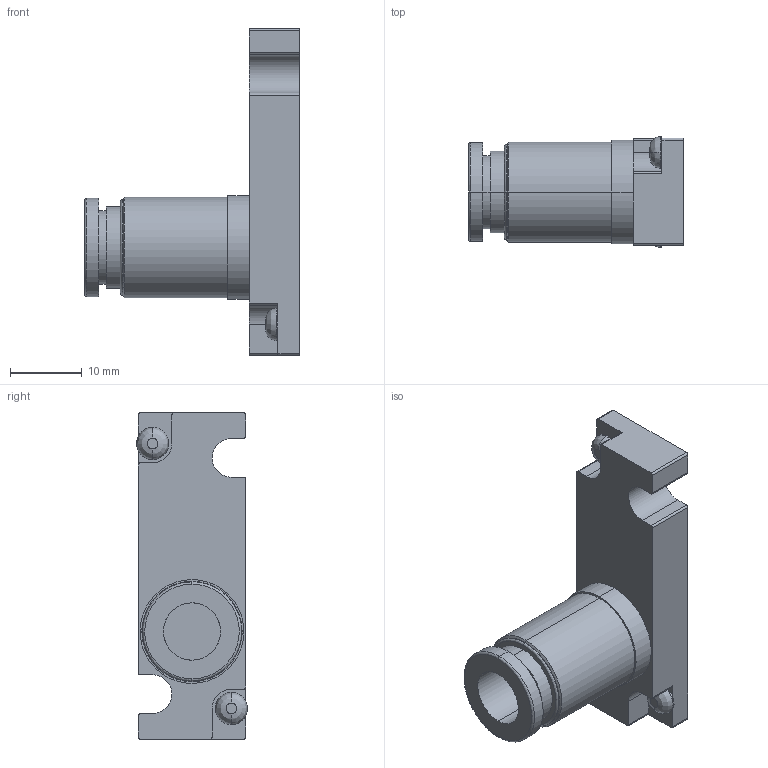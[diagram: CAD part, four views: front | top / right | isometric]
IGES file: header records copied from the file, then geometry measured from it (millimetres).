
Start section: ------------------------------------------------------------------------
Global section: file name: D:\ICADMX\tmp\trans3d_spg\CVICAD02.3036.F15_Port-FJ6B_16776.igs; native system: spGate; preprocessor: ver12.6.6; author: Unknown; organization: Unknown; date: 210712.184843; units: millimetre
Bounding box: 30 x 15.5 x 45.6 mm (x, y, z)
Volume: 6649.6 mm3; surface area: 3848 mm2
Topology: 1 solids, 1 shells, 72 faces, 176 edges, 112 vertices
Faces by surface type: bspline 72
